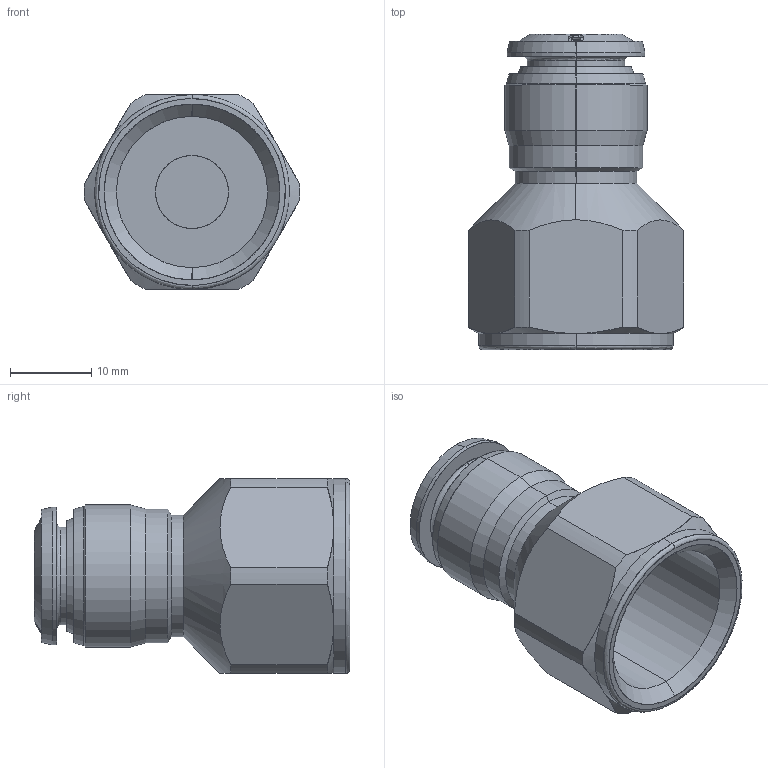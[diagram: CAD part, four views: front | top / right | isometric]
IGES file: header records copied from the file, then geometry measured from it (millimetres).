
Start section: SolidWorks IGES file using analytic representation for surfaces
Global section: file name: K:\Disegni Esecutivi\Serie 50000\ASSIEMI\50030\ASSIEMI_PIENI_50030\5003000013.IGS; native system: SolidWorks 2007; preprocessor: SolidWorks 2007; author: cad02; date: 071011.095456; units: millimetre
Bounding box: 26.59 x 38.9 x 24 mm (x, y, z)
Surface area: 5256.7 mm2 (no closed solid volume)
Topology: 0 solids, 0 shells, 154 faces, 1834 edges, 1834 vertices
Faces by surface type: bspline 78, revolution 76
